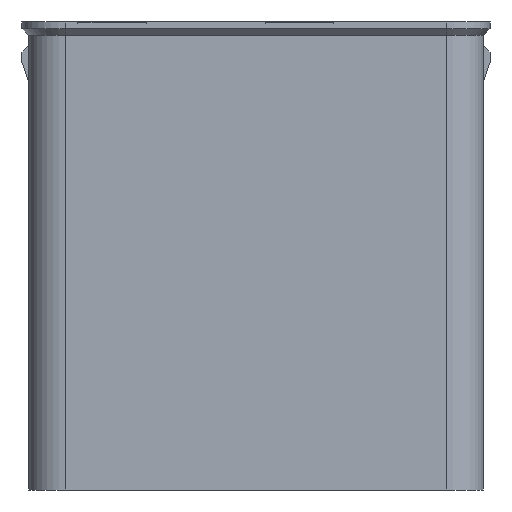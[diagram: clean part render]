
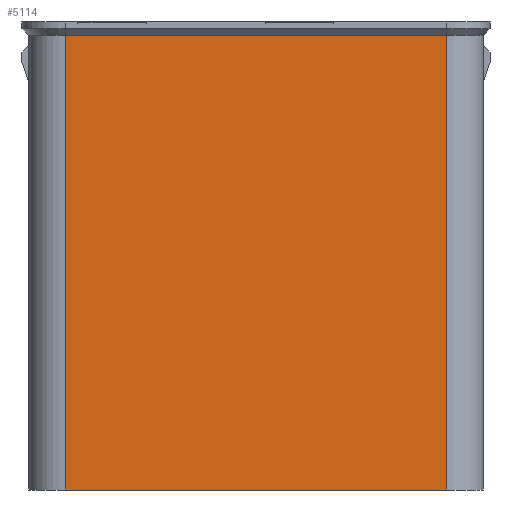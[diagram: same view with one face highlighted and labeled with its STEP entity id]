
A CAD part, left-side view. The second image highlights one B-rep face of the part: STEP entity #5114.
In plain terms, the highlighted planar face has unit normal (-1, 0, 0).
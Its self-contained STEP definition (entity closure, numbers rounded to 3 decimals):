
#1516 = PLANE('',#1517);
#1517 = AXIS2_PLACEMENT_3D('',#1518,#1519,#1520);
#1518 = CARTESIAN_POINT('',(131.5,26.5,99.));
#1519 = DIRECTION('',(-0.707,0.,-0.707));
#1520 = DIRECTION('',(0.,-1.,-0.));
#3430 = PLANE('',#3431);
#3431 = AXIS2_PLACEMENT_3D('',#3432,#3433,#3434);
#3432 = CARTESIAN_POINT('',(132.5,27.5,30.));
#3433 = DIRECTION('',(0.,0.,1.));
#3434 = DIRECTION('',(1.,0.,0.));
#3458 = CYLINDRICAL_SURFACE('',#3459,5.5);
#3459 = AXIS2_PLACEMENT_3D('',#3460,#3461,#3462);
#3460 = CARTESIAN_POINT('',(138.,33.,30.));
#3461 = DIRECTION('',(0.,0.,1.));
#3462 = DIRECTION('',(-1.,-0.,0.));
#3599 = EDGE_CURVE('',#3600,#3602,#3604,.T.);
#3600 = VERTEX_POINT('',#3601);
#3601 = CARTESIAN_POINT('',(132.5,33.,98.));
#3602 = VERTEX_POINT('',#3603);
#3603 = CARTESIAN_POINT('',(132.5,90.,98.));
#3604 = SURFACE_CURVE('',#3605,(#3609,#3616),.PCURVE_S1.);
#3605 = LINE('',#3606,#3607);
#3606 = CARTESIAN_POINT('',(132.5,27.5,98.));
#3607 = VECTOR('',#3608,1.);
#3608 = DIRECTION('',(0.,1.,0.));
#3609 = PCURVE('',#1516,#3610);
#3610 = DEFINITIONAL_REPRESENTATION('',(#3611),#3615);
#3611 = LINE('',#3612,#3613);
#3612 = CARTESIAN_POINT('',(-1.,-1.414));
#3613 = VECTOR('',#3614,1.);
#3614 = DIRECTION('',(-1.,0.));
#3615 = ( GEOMETRIC_REPRESENTATION_CONTEXT(2) 
PARAMETRIC_REPRESENTATION_CONTEXT() REPRESENTATION_CONTEXT('2D SPACE',''
  ) );
#3616 = PCURVE('',#3617,#3622);
#3617 = PLANE('',#3618);
#3618 = AXIS2_PLACEMENT_3D('',#3619,#3620,#3621);
#3619 = CARTESIAN_POINT('',(132.5,27.5,30.));
#3620 = DIRECTION('',(1.,0.,0.));
#3621 = DIRECTION('',(0.,0.,1.));
#3622 = DEFINITIONAL_REPRESENTATION('',(#3623),#3627);
#3623 = LINE('',#3624,#3625);
#3624 = CARTESIAN_POINT('',(68.,0.));
#3625 = VECTOR('',#3626,1.);
#3626 = DIRECTION('',(0.,-1.));
#3627 = ( GEOMETRIC_REPRESENTATION_CONTEXT(2) 
PARAMETRIC_REPRESENTATION_CONTEXT() REPRESENTATION_CONTEXT('2D SPACE',''
  ) );
#3686 = CYLINDRICAL_SURFACE('',#3687,5.5);
#3687 = AXIS2_PLACEMENT_3D('',#3688,#3689,#3690);
#3688 = CARTESIAN_POINT('',(138.,90.,30.));
#3689 = DIRECTION('',(0.,0.,1.));
#3690 = DIRECTION('',(-1.,-0.,0.));
#4858 = EDGE_CURVE('',#4859,#4861,#4863,.T.);
#4859 = VERTEX_POINT('',#4860);
#4860 = CARTESIAN_POINT('',(132.5,33.,30.));
#4861 = VERTEX_POINT('',#4862);
#4862 = CARTESIAN_POINT('',(132.5,90.,30.));
#4863 = SURFACE_CURVE('',#4864,(#4868,#4875),.PCURVE_S1.);
#4864 = LINE('',#4865,#4866);
#4865 = CARTESIAN_POINT('',(132.5,27.5,30.));
#4866 = VECTOR('',#4867,1.);
#4867 = DIRECTION('',(0.,1.,0.));
#4868 = PCURVE('',#3430,#4869);
#4869 = DEFINITIONAL_REPRESENTATION('',(#4870),#4874);
#4870 = LINE('',#4871,#4872);
#4871 = CARTESIAN_POINT('',(0.,0.));
#4872 = VECTOR('',#4873,1.);
#4873 = DIRECTION('',(0.,1.));
#4874 = ( GEOMETRIC_REPRESENTATION_CONTEXT(2) 
PARAMETRIC_REPRESENTATION_CONTEXT() REPRESENTATION_CONTEXT('2D SPACE',''
  ) );
#4875 = PCURVE('',#3617,#4876);
#4876 = DEFINITIONAL_REPRESENTATION('',(#4877),#4881);
#4877 = LINE('',#4878,#4879);
#4878 = CARTESIAN_POINT('',(0.,0.));
#4879 = VECTOR('',#4880,1.);
#4880 = DIRECTION('',(0.,-1.));
#4881 = ( GEOMETRIC_REPRESENTATION_CONTEXT(2) 
PARAMETRIC_REPRESENTATION_CONTEXT() REPRESENTATION_CONTEXT('2D SPACE',''
  ) );
#5091 = EDGE_CURVE('',#4859,#3600,#5092,.T.);
#5092 = SURFACE_CURVE('',#5093,(#5097,#5104),.PCURVE_S1.);
#5093 = LINE('',#5094,#5095);
#5094 = CARTESIAN_POINT('',(132.5,33.,30.));
#5095 = VECTOR('',#5096,1.);
#5096 = DIRECTION('',(0.,0.,1.));
#5097 = PCURVE('',#3458,#5098);
#5098 = DEFINITIONAL_REPRESENTATION('',(#5099),#5103);
#5099 = LINE('',#5100,#5101);
#5100 = CARTESIAN_POINT('',(0.,0.));
#5101 = VECTOR('',#5102,1.);
#5102 = DIRECTION('',(0.,1.));
#5103 = ( GEOMETRIC_REPRESENTATION_CONTEXT(2) 
PARAMETRIC_REPRESENTATION_CONTEXT() REPRESENTATION_CONTEXT('2D SPACE',''
  ) );
#5104 = PCURVE('',#3617,#5105);
#5105 = DEFINITIONAL_REPRESENTATION('',(#5106),#5110);
#5106 = LINE('',#5107,#5108);
#5107 = CARTESIAN_POINT('',(0.,-5.5));
#5108 = VECTOR('',#5109,1.);
#5109 = DIRECTION('',(1.,0.));
#5110 = ( GEOMETRIC_REPRESENTATION_CONTEXT(2) 
PARAMETRIC_REPRESENTATION_CONTEXT() REPRESENTATION_CONTEXT('2D SPACE',''
  ) );
#5114 = ADVANCED_FACE('',(#5115),#3617,.F.);
#5115 = FACE_BOUND('',#5116,.F.);
#5116 = EDGE_LOOP('',(#5117,#5118,#5119,#5120));
#5117 = ORIENTED_EDGE('',*,*,#3599,.F.);
#5118 = ORIENTED_EDGE('',*,*,#5091,.F.);
#5119 = ORIENTED_EDGE('',*,*,#4858,.T.);
#5120 = ORIENTED_EDGE('',*,*,#5121,.T.);
#5121 = EDGE_CURVE('',#4861,#3602,#5122,.T.);
#5122 = SURFACE_CURVE('',#5123,(#5127,#5134),.PCURVE_S1.);
#5123 = LINE('',#5124,#5125);
#5124 = CARTESIAN_POINT('',(132.5,90.,30.));
#5125 = VECTOR('',#5126,1.);
#5126 = DIRECTION('',(0.,0.,1.));
#5127 = PCURVE('',#3617,#5128);
#5128 = DEFINITIONAL_REPRESENTATION('',(#5129),#5133);
#5129 = LINE('',#5130,#5131);
#5130 = CARTESIAN_POINT('',(0.,-62.5));
#5131 = VECTOR('',#5132,1.);
#5132 = DIRECTION('',(1.,0.));
#5133 = ( GEOMETRIC_REPRESENTATION_CONTEXT(2) 
PARAMETRIC_REPRESENTATION_CONTEXT() REPRESENTATION_CONTEXT('2D SPACE',''
  ) );
#5134 = PCURVE('',#3686,#5135);
#5135 = DEFINITIONAL_REPRESENTATION('',(#5136),#5140);
#5136 = LINE('',#5137,#5138);
#5137 = CARTESIAN_POINT('',(-0.,0.));
#5138 = VECTOR('',#5139,1.);
#5139 = DIRECTION('',(-0.,1.));
#5140 = ( GEOMETRIC_REPRESENTATION_CONTEXT(2) 
PARAMETRIC_REPRESENTATION_CONTEXT() REPRESENTATION_CONTEXT('2D SPACE',''
  ) );
